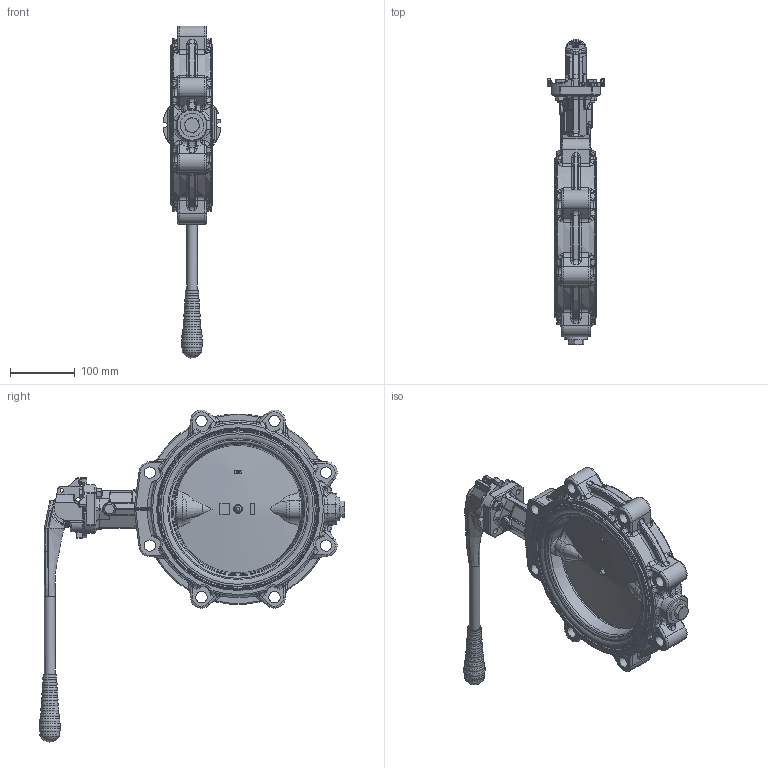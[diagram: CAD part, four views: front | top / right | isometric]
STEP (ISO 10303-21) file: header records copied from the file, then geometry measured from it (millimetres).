
FILE_DESCRIPTION((''),'2;1');
FILE_NAME('K:\Inventor\1 Artikel\10) Absperrklappen\10a) manuell\ABO Valve\894-GGG, 994T\894-GGG, DN200\894-GGG, DN200, 3D\894-GGG, DN200, PN10, HH, 3D.stp','2019-08-13T11:47:31',('claudia'),(''),'Autodesk Inventor 2013','Autodesk Inventor 2013','');
FILE_SCHEMA(('AUTOMOTIVE_DESIGN { 1 0 10303 214 1 1 1 1 }'));
Length unit declared in the file: millimetre
Products named in the file (1): Bauteil14
Bounding box: 89.15 x 473.18 x 513.43 mm (x, y, z)
Volume: 5122.4 mm3; surface area: 376999.2 mm2
Topology: 7 solids, 8 shells, 2434 faces, 6314 edges, 3855 vertices
Faces by surface type: bspline 845, plane 729, cylinder 456, torus 302, cone 88, sphere 14
Full cylindrical faces by diameter (mm): 5.5 x2, 6.3 x2, 6.5 x2, 6.8 x1, 7 x2, 8 x4, 9 x4, 9.5 x1, 13 x2, 14.98 x1, 16 x2, 16.5 x2, 17.5 x8, 20.5 x1, 22 x1, 22.15 x1, 22.5 x1, 27 x1, 28.5 x1, 30 x1, 32 x1, 36 x1, 56 x1, 248 x2, 251.4 x2
Entity records: 111395 total; most frequent: CARTESIAN_POINT 56760, ORIENTED_EDGE 12090, DIRECTION 8846, EDGE_CURVE 6047, VERTEX_POINT 3811, AXIS2_PLACEMENT_3D 3317, EDGE_LOOP 2681, STYLED_ITEM 2435
